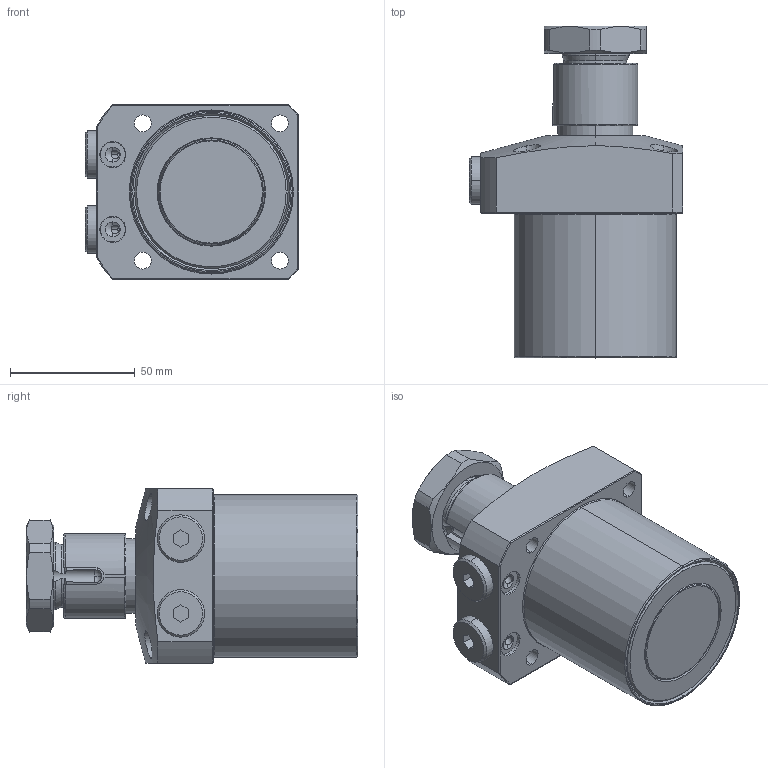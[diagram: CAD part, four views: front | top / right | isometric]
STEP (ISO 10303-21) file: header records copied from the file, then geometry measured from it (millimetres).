
FILE_DESCRIPTION (( 'STEP AP203' ), '1' );
FILE_NAME ('20500-CL.step', '2019-06-24T03:03:53', ( '微软用户' ), ( '微软中国' ), 'SwSTEP 2.0', 'SolidWorks 2014', '' );
FILE_SCHEMA (( 'CONFIG_CONTROL_DESIGN' ));
Length unit declared in the file: millimetre
Products named in the file (7): 20500-1^20500-CL; 20500-02^20500-CL; 20500-03^20500-CL; 20500-04^20500-CL; 20500-05^20500-CL; 20500-C-P-4^20500-CL; 20500-CL
Assembly tree (7 placements, depth 2):
  20500-CL
    20500-1^20500-CL
    20500-02^20500-CL
    20500-03^20500-CL
    20500-04^20500-CL
    20500-05^20500-CL
    20500-C-P-4^20500-CL  x2
Bounding box: 85.5 x 133 x 70 mm (x, y, z)
Volume: 399205.1 mm3; surface area: 57653.6 mm2
Topology: 7 solids, 7 shells, 224 faces, 537 edges, 339 vertices
Faces by surface type: plane 78, cylinder 75, cone 49, torus 20, sphere 2
Entity records: 7785 total; most frequent: CARTESIAN_POINT 2094, DIRECTION 1063, ORIENTED_EDGE 1014, EDGE_CURVE 507, AXIS2_PLACEMENT_3D 435, VERTEX_POINT 321, EDGE_LOOP 238, CIRCLE 214
